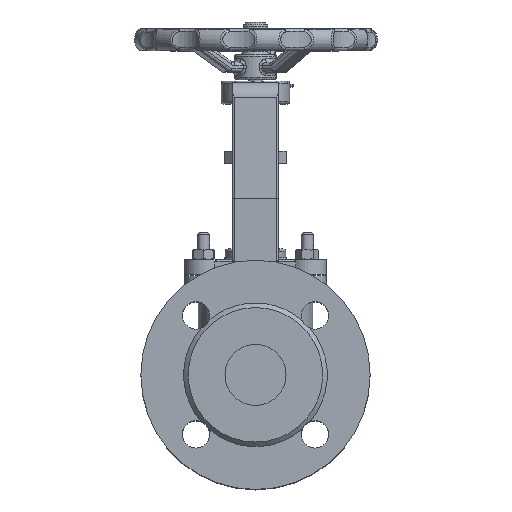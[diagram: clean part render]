
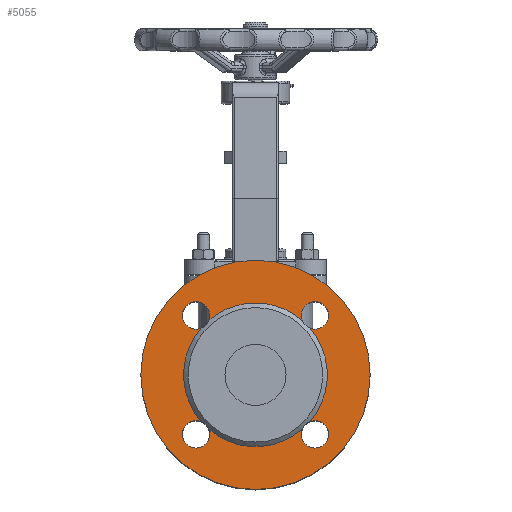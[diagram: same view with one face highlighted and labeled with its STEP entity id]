
A CAD part, top view. The second image highlights one B-rep face of the part: STEP entity #5055.
In plain terms, the highlighted planar face has unit normal (0, 0, 1).
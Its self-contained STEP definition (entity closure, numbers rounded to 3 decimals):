
#5055=ADVANCED_FACE('',(#12593,#12595),#12597,.F.);
#12593=FACE_BOUND('',#12594,.T.);
#12594=EDGE_LOOP('',(#20967));
#12595=FACE_BOUND('',#12596,.T.);
#12596=EDGE_LOOP('',(#20968,#20969,#20970,#20971,#20972,#20973,#20974,#20975,#20976,
#20977,#20978,#20979,#20980));
#12597=PLANE('',#12598);
#12598=AXIS2_PLACEMENT_3D('',#12599,#12600,#12601);
#12599=CARTESIAN_POINT('',(0.,0.,97.));
#12600=DIRECTION('',(0.,0.,-1.));
#12601=DIRECTION('',(0.,1.,0.));
#20967=ORIENTED_EDGE('',*,*,#24254,.T.);
#20968=ORIENTED_EDGE('',*,*,#24257,.T.);
#20969=ORIENTED_EDGE('',*,*,#24366,.F.);
#20970=ORIENTED_EDGE('',*,*,#24264,.T.);
#20971=ORIENTED_EDGE('',*,*,#24266,.T.);
#20972=ORIENTED_EDGE('',*,*,#24367,.F.);
#20973=ORIENTED_EDGE('',*,*,#24259,.T.);
#20974=ORIENTED_EDGE('',*,*,#24258,.T.);
#20975=ORIENTED_EDGE('',*,*,#24368,.F.);
#20976=ORIENTED_EDGE('',*,*,#24369,.F.);
#20977=ORIENTED_EDGE('',*,*,#24262,.T.);
#20978=ORIENTED_EDGE('',*,*,#24261,.T.);
#20979=ORIENTED_EDGE('',*,*,#24370,.F.);
#20980=ORIENTED_EDGE('',*,*,#24255,.T.);
#24254=EDGE_CURVE('',#27650,#27650,#27651,.T.);
#24255=EDGE_CURVE('',#27652,#27653,#27654,.T.);
#24257=EDGE_CURVE('',#27653,#27655,#27657,.T.);
#24258=EDGE_CURVE('',#27658,#27659,#27660,.T.);
#24259=EDGE_CURVE('',#27661,#27658,#27662,.T.);
#24261=EDGE_CURVE('',#27664,#27665,#27666,.T.);
#24262=EDGE_CURVE('',#27667,#27664,#27668,.T.);
#24264=EDGE_CURVE('',#27670,#27671,#27672,.T.);
#24266=EDGE_CURVE('',#27671,#27673,#27675,.T.);
#24366=EDGE_CURVE('',#27670,#27655,#27839,.T.);
#24367=EDGE_CURVE('',#27661,#27673,#27840,.T.);
#24368=EDGE_CURVE('',#27841,#27659,#27842,.T.);
#24369=EDGE_CURVE('',#27667,#27841,#27843,.T.);
#24370=EDGE_CURVE('',#27652,#27665,#27844,.T.);
#27650=VERTEX_POINT('',#52634);
#27651=CIRCLE('',#52635,75.);
#27652=VERTEX_POINT('',#52639);
#27653=VERTEX_POINT('',#52640);
#27654=CIRCLE('',#52641,9.);
#27655=VERTEX_POINT('',#52645);
#27657=CIRCLE('',#52721,9.);
#27658=VERTEX_POINT('',#52725);
#27659=VERTEX_POINT('',#52726);
#27660=CIRCLE('',#52727,9.);
#27661=VERTEX_POINT('',#52731);
#27662=CIRCLE('',#52732,9.);
#27664=VERTEX_POINT('',#52811);
#27665=VERTEX_POINT('',#52812);
#27666=CIRCLE('',#52813,9.);
#27667=VERTEX_POINT('',#52817);
#27668=CIRCLE('',#52818,9.);
#27670=VERTEX_POINT('',#52897);
#27671=VERTEX_POINT('',#52898);
#27672=CIRCLE('',#52899,9.);
#27673=VERTEX_POINT('',#52903);
#27675=CIRCLE('',#52979,9.);
#27839=CIRCLE('',#55231,47.);
#27840=CIRCLE('',#55235,47.);
#27841=VERTEX_POINT('',#55239);
#27842=CIRCLE('',#55240,47.);
#27843=CIRCLE('',#55244,47.);
#27844=CIRCLE('',#55248,47.);
#52634=CARTESIAN_POINT('',(0.,75.,97.));
#52635=AXIS2_PLACEMENT_3D('',#52636,#52637,#52638);
#52636=CARTESIAN_POINT('',(0.,0.,97.));
#52637=DIRECTION('',(0.,0.,1.));
#52638=DIRECTION('',(0.,1.,0.));
#52639=CARTESIAN_POINT('',(35.818,-30.432,97.));
#52640=CARTESIAN_POINT('',(38.891,-29.891,97.));
#52641=AXIS2_PLACEMENT_3D('',#52642,#52643,#52644);
#52642=CARTESIAN_POINT('',(38.891,-38.891,97.));
#52643=DIRECTION('',(0.,0.,-1.));
#52644=DIRECTION('',(-0.341,0.94,0.));
#52645=CARTESIAN_POINT('',(30.432,-35.818,97.));
#52721=AXIS2_PLACEMENT_3D('',#52722,#52723,#52724);
#52722=CARTESIAN_POINT('',(38.891,-38.891,97.));
#52723=DIRECTION('',(0.,0.,-1.));
#52724=DIRECTION('',(0.,1.,0.));
#52725=CARTESIAN_POINT('',(-38.891,29.891,97.));
#52726=CARTESIAN_POINT('',(-30.432,35.818,97.));
#52727=AXIS2_PLACEMENT_3D('',#52728,#52729,#52730);
#52728=CARTESIAN_POINT('',(-38.891,38.891,97.));
#52729=DIRECTION('',(0.,0.,-1.));
#52730=DIRECTION('',(0.,-1.,0.));
#52731=CARTESIAN_POINT('',(-35.818,30.432,97.));
#52732=AXIS2_PLACEMENT_3D('',#52733,#52734,#52735);
#52733=CARTESIAN_POINT('',(-38.891,38.891,97.));
#52734=DIRECTION('',(0.,0.,-1.));
#52735=DIRECTION('',(0.341,-0.94,0.));
#52811=CARTESIAN_POINT('',(29.891,38.891,97.));
#52812=CARTESIAN_POINT('',(35.818,30.432,97.));
#52813=AXIS2_PLACEMENT_3D('',#52814,#52815,#52816);
#52814=CARTESIAN_POINT('',(38.891,38.891,97.));
#52815=DIRECTION('',(0.,0.,-1.));
#52816=DIRECTION('',(-1.,0.,0.));
#52817=CARTESIAN_POINT('',(30.432,35.818,97.));
#52818=AXIS2_PLACEMENT_3D('',#52819,#52820,#52821);
#52819=CARTESIAN_POINT('',(38.891,38.891,97.));
#52820=DIRECTION('',(0.,0.,-1.));
#52821=DIRECTION('',(-0.94,-0.341,0.));
#52897=CARTESIAN_POINT('',(-30.432,-35.818,97.));
#52898=CARTESIAN_POINT('',(-29.891,-38.891,97.));
#52899=AXIS2_PLACEMENT_3D('',#52900,#52901,#52902);
#52900=CARTESIAN_POINT('',(-38.891,-38.891,97.));
#52901=DIRECTION('',(0.,0.,-1.));
#52902=DIRECTION('',(0.94,0.341,0.));
#52903=CARTESIAN_POINT('',(-35.818,-30.432,97.));
#52979=AXIS2_PLACEMENT_3D('',#52980,#52981,#52982);
#52980=CARTESIAN_POINT('',(-38.891,-38.891,97.));
#52981=DIRECTION('',(0.,0.,-1.));
#52982=DIRECTION('',(1.,0.,0.));
#55231=AXIS2_PLACEMENT_3D('',#55232,#55233,#55234);
#55232=CARTESIAN_POINT('',(0.,0.,97.));
#55233=DIRECTION('',(0.,0.,1.));
#55234=DIRECTION('',(-0.647,-0.762,0.));
#55235=AXIS2_PLACEMENT_3D('',#55236,#55237,#55238);
#55236=CARTESIAN_POINT('',(0.,0.,97.));
#55237=DIRECTION('',(0.,0.,1.));
#55238=DIRECTION('',(-0.762,0.647,0.));
#55239=CARTESIAN_POINT('',(0.,47.,97.));
#55240=AXIS2_PLACEMENT_3D('',#55241,#55242,#55243);
#55241=CARTESIAN_POINT('',(0.,0.,97.));
#55242=DIRECTION('',(0.,0.,1.));
#55243=DIRECTION('',(0.,1.,0.));
#55244=AXIS2_PLACEMENT_3D('',#55245,#55246,#55247);
#55245=CARTESIAN_POINT('',(0.,0.,97.));
#55246=DIRECTION('',(0.,0.,1.));
#55247=DIRECTION('',(0.647,0.762,0.));
#55248=AXIS2_PLACEMENT_3D('',#55249,#55250,#55251);
#55249=CARTESIAN_POINT('',(0.,0.,97.));
#55250=DIRECTION('',(0.,0.,1.));
#55251=DIRECTION('',(0.762,-0.647,0.));
